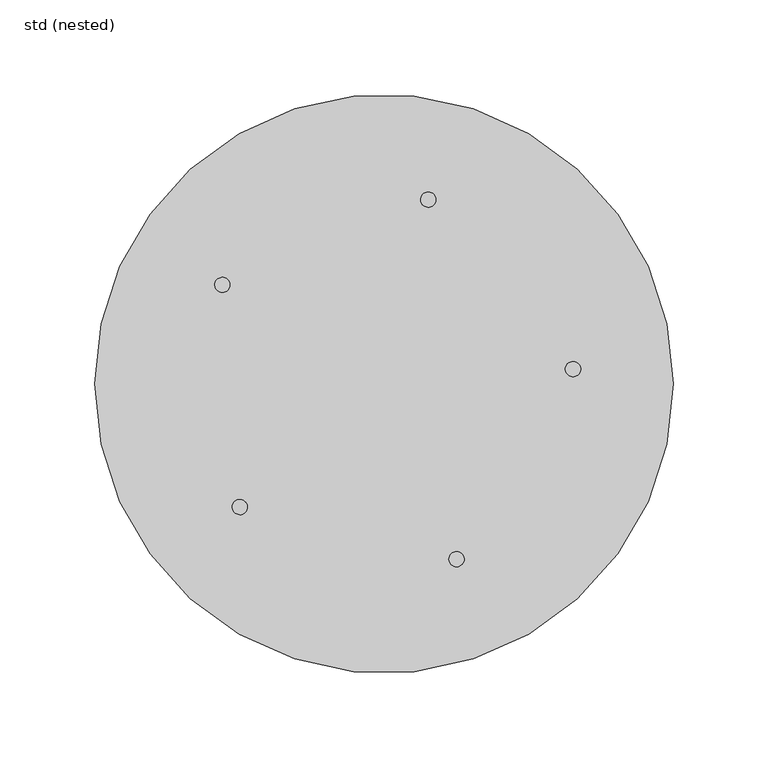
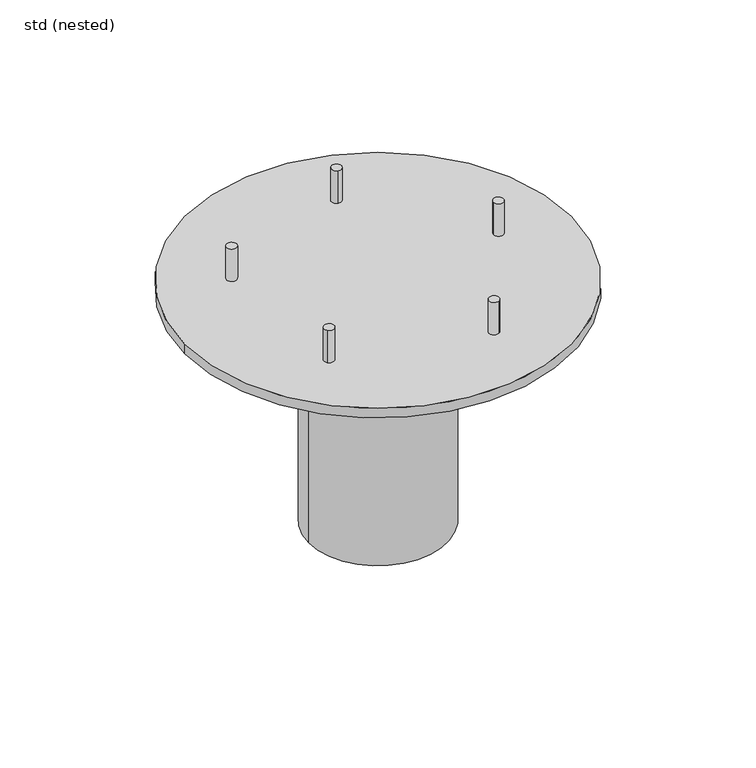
"""IFC4 building model written with IfcOpenShell, lengths in millimetres: sanitary terminal geometry, ZZZ_do not use_PF_CI_upper part for Passavant Spin_ACO : std (nested)."""

import ifcopenshell
import ifcopenshell.guid

model = None  # the IFC model being written
_history = None  # IfcOwnerHistory: only IFC2X3 demands one
_inside = {}  # id of a spatial element -> (the spatial element, [elements in it])
_under = {}  # id of a project, library or spatial element -> (it, [spatial elements below it])
_declared = {}  # id of a project -> (the project, [libraries it declares])
_typed = {}  # id of a type object -> (the type object, [elements of that type])
_made_of = {}  # id of a material, layer set ... -> (it, [elements and type objects made of it])


def new_model(schema):
    """Start an empty IFC model of exactly this schema.

    Asked for "IFC4X3", IfcOpenShell would pick the latest addendum, in which some entities
    have other attributes; the version numbers below select the first issue.
    IFC2X3 requires an IfcOwnerHistory on every rooted entity: one is made here for all.
    """
    global model, _history
    if schema == "IFC4X3":
        model = ifcopenshell.file(schema_version=(4, 3, 0, 0))
    else:
        model = ifcopenshell.file(schema=schema)
    _inside.clear()
    _under.clear()
    _declared.clear()
    _typed.clear()
    _made_of.clear()
    _history = None
    if model.schema == "IFC2X3":
        org = make("IfcOrganization", Name="unknown")
        user = make(
            "IfcPersonAndOrganization",
            ThePerson=make("IfcPerson", FamilyName="unknown"),
            TheOrganization=org,
        )
        app = make(
            "IfcApplication",
            ApplicationDeveloper=org,
            Version="unknown",
            ApplicationFullName="unknown",
            ApplicationIdentifier="unknown",
        )
        _history = make(
            "IfcOwnerHistory",
            OwningUser=user,
            OwningApplication=app,
            ChangeAction="ADDED",
            CreationDate=0,
        )
    return model


def make(cls, **values):
    """One entity of the class cls with the attributes given. An attribute that is None is left unset."""
    return model.create_entity(
        cls, **{name: value for name, value in values.items() if value is not None}
    )


def rooted(cls, **values):
    """An entity with a GlobalId (a new one), such as an element, a storey or a relation."""
    return make(cls, GlobalId=ifcopenshell.guid.new(), OwnerHistory=_history, **values)


def si_unit(unit_type, name, prefix=None):
    """IfcSIUnit, for example si_unit("LENGTHUNIT", "METRE", prefix="MILLI")."""
    return make("IfcSIUnit", UnitType=unit_type, Prefix=prefix, Name=name)


def assignment(units):
    """IfcUnitAssignment: the units of a project."""
    return None if units is None else make("IfcUnitAssignment", Units=units)


def point(xyz):
    """IfcCartesianPoint."""
    return None if xyz is None else make("IfcCartesianPoint", Coordinates=xyz)


def direction(xyz):
    """IfcDirection."""
    return None if xyz is None else make("IfcDirection", DirectionRatios=xyz)


def frame(location, z_axis=None, x_axis=None):
    """IfcAxis2Placement3D, a coordinate frame: its origin and axes. An axis left out is left unset."""
    return make(
        "IfcAxis2Placement3D",
        Location=point(location),
        Axis=direction(z_axis),
        RefDirection=direction(x_axis),
    )


def frame_2d(location, x_axis=None):
    """IfcAxis2Placement2D, a coordinate frame in the plane: its origin and x axis."""
    return make(
        "IfcAxis2Placement2D", Location=point(location), RefDirection=direction(x_axis)
    )


def origin():
    """The frame at (0, 0, 0) with its axes left unset."""
    return frame((0.0, 0.0, 0.0))


def origin_with_axes():
    """The frame at (0, 0, 0) with the z axis (0, 0, 1) and the x axis (1, 0, 0) written out."""
    return frame((0.0, 0.0, 0.0), z_axis=(0.0, 0.0, 1.0), x_axis=(1.0, 0.0, 0.0))


def origin_2d():
    """The frame at (0, 0) in the plane with its x axis left unset."""
    return frame_2d((0.0, 0.0))


def place(relative_to, where):
    """IfcLocalPlacement: puts the frame where relative to a parent placement (None: the world)."""
    return make(
        "IfcLocalPlacement", PlacementRelTo=relative_to, RelativePlacement=where
    )


def context(
    kind, dimensions, precision=None, world=None, true_north=None, identifier=None
):
    """IfcGeometricRepresentationContext, for example the 3D "Model" context."""
    return make(
        "IfcGeometricRepresentationContext",
        ContextIdentifier=identifier,
        ContextType=kind,
        CoordinateSpaceDimension=dimensions,
        Precision=precision,
        WorldCoordinateSystem=world,
        TrueNorth=true_north,
    )


def project(units=None, contexts=None):
    """IfcProject with its units and contexts."""
    return rooted(
        "IfcProject",
        Name="project",
        RepresentationContexts=contexts,
        UnitsInContext=assignment(units),
    )


def spatial(cls, under=None, at=None, **own):
    """A site, building, storey or space (cls), placed at a placement, below another one or the project."""
    s = rooted(cls, ObjectPlacement=at, **own)
    if under is not None:
        _under.setdefault(under.id(), (under, []))[1].append(s)
    return s


def circle_curve(where, radius):
    """IfcCircle in the frame where."""
    return make("IfcCircle", Position=where, Radius=radius)


def trimmed(basis, trim1, trim2, sense, master):
    """IfcTrimmedCurve: the piece of a basis curve between two trims."""
    return make(
        "IfcTrimmedCurve",
        BasisCurve=basis,
        Trim1=trim1,
        Trim2=trim2,
        SenseAgreement=sense,
        MasterRepresentation=master,
    )


def segment(curve, same_sense, transition):
    """IfcCompositeCurveSegment."""
    return make(
        "IfcCompositeCurveSegment",
        Transition=transition,
        SameSense=same_sense,
        ParentCurve=curve,
    )


def composite_curve(segments, self_intersect=None):
    """IfcCompositeCurve: segments joined end to end."""
    return make("IfcCompositeCurve", Segments=segments, SelfIntersect=self_intersect)


def outline(outer, holes=None, kind="AREA"):
    """IfcArbitraryClosedProfileDef: a profile drawn as a closed curve; with holes, ...WithVoids."""
    if holes is None:
        return make("IfcArbitraryClosedProfileDef", ProfileType=kind, OuterCurve=outer)
    return make(
        "IfcArbitraryProfileDefWithVoids",
        ProfileType=kind,
        OuterCurve=outer,
        InnerCurves=holes,
    )


def extrude(swept, where, along, depth):
    """IfcExtrudedAreaSolid: the profile swept, set in the frame where, extruded along a direction by depth."""
    return make(
        "IfcExtrudedAreaSolid",
        SweptArea=swept,
        Position=where,
        ExtrudedDirection=direction(along),
        Depth=depth,
    )


def shape(context_of_items, identifier, shape_type, items):
    """IfcShapeRepresentation: the items that make up one representation, for example the "Body"."""
    return make(
        "IfcShapeRepresentation",
        ContextOfItems=context_of_items,
        RepresentationIdentifier=identifier,
        RepresentationType=shape_type,
        Items=items,
    )


def source(mapping_origin, context_of_items, identifier, shape_type, items):
    """IfcRepresentationMap: a shape defined once, which mapped items show again and again."""
    return make(
        "IfcRepresentationMap",
        MappingOrigin=mapping_origin,
        MappedRepresentation=shape(context_of_items, identifier, shape_type, items),
    )


def transform(
    local_origin,
    x_axis=None,
    y_axis=None,
    z_axis=None,
    scale=None,
    scale2=None,
    scale3=None,
    uniform=True,
):
    """IfcCartesianTransformationOperator3D, or its non-uniform kind. x_axis, y_axis, z_axis: its Axis1, 2, 3."""
    if uniform:
        return make(
            "IfcCartesianTransformationOperator3D",
            Axis1=direction(x_axis),
            Axis2=direction(y_axis),
            LocalOrigin=point(local_origin),
            Scale=scale,
            Axis3=direction(z_axis),
        )
    return make(
        "IfcCartesianTransformationOperator3DnonUniform",
        Axis1=direction(x_axis),
        Axis2=direction(y_axis),
        LocalOrigin=point(local_origin),
        Scale=scale,
        Axis3=direction(z_axis),
        Scale2=scale2,
        Scale3=scale3,
    )


def mapped(mapping_source, mapping_target):
    """IfcMappedItem: shows the shape of a source again, moved by a transform."""
    return make(
        "IfcMappedItem", MappingSource=mapping_source, MappingTarget=mapping_target
    )


def made_of(thing, what):
    """Note that an element or type object is made of a material, layer set ...; save() writes the relation."""
    if what is not None:
        _made_of.setdefault(what.id(), (what, []))[1].append(thing)
    return thing


def element(
    cls,
    number,
    at=None,
    inside=None,
    cuts=None,
    type_object=None,
    material=None,
    context=None,
    identifier="Body",
    shape_type=None,
    held_by="IfcProductDefinitionShape",
    body=None,
    shapes=None,
    **own,
):
    """One element of the class cls, such as IfcWall. Its Tag is "e" and its number.

    at: its placement. inside: the storey or other place that contains it. cuts: it is an
    opening in that element (IfcRelVoidsElement). A single representation is given by context,
    identifier, shape_type and body (its items); several are given by shapes. held_by: the class
    of the entity that holds the representations. save() writes the other relations.
    """
    e = rooted(cls, Tag="e%d" % number, ObjectPlacement=at, **own)
    if body is not None:
        shapes = [shape(context, identifier, shape_type, body)]
    if shapes is not None:
        e.Representation = make(held_by, Representations=shapes)
    if inside is not None:
        _inside.setdefault(inside.id(), (inside, []))[1].append(e)
    if cuts is not None:
        rooted(
            "IfcRelVoidsElement", RelatingBuildingElement=cuts, RelatedOpeningElement=e
        )
    if type_object is not None:
        _typed.setdefault(type_object.id(), (type_object, []))[1].append(e)
    return made_of(e, material)


def aggregate(whole, parts):
    """IfcRelAggregates: a whole, such as a stair, and the parts it consists of."""
    return rooted("IfcRelAggregates", RelatingObject=whole, RelatedObjects=parts)


def save(model, path):
    """Write the relations noted so far, then the file.

    IfcRelAggregates (storeys below a building ...), IfcRelContainedInSpatialStructure (elements
    in a storey), IfcRelDefinesByType, IfcRelAssociatesMaterial and IfcRelDeclares: one each for
    every whole, place, type object, material and project.
    """
    for whole, parts in _under.values():
        aggregate(whole, parts)
    for where, things in _inside.values():
        rooted(
            "IfcRelContainedInSpatialStructure",
            RelatedElements=things,
            RelatingStructure=where,
        )
    for kind, things in _typed.values():
        rooted("IfcRelDefinesByType", RelatedObjects=things, RelatingType=kind)
    for what, things in _made_of.values():
        rooted("IfcRelAssociatesMaterial", RelatedObjects=things, RelatingMaterial=what)
    for by, libraries in _declared.values():
        rooted("IfcRelDeclares", RelatingContext=by, RelatedDefinitions=libraries)
    model.write(path)


def plane_surface(at):
    """IfcPlane: the flat surface through the origin of the frame at, square to its z axis."""
    return make("IfcPlane", Position=at)


def cylinder_surface(at, radius):
    """IfcCylindricalSurface: all points at the distance radius from the z axis of the frame at."""
    return make("IfcCylindricalSurface", Position=at, Radius=radius)


def advanced_brep(points, edges, surfaces, faces):
    """IfcAdvancedBrep: a solid bounded by faces that lie on surfaces and meet in shared edges.

    An edge is (start, end): straight between two places in points (the first is 0);
    or (start, end, curve); or (start, end, curve, False) where it runs against its curve.
    A face is (place in surfaces, loops), or (place, loops, False) where it looks against
    its surface's normal. A loop lists edges by number (the first is 1), with a minus sign
    where the edge is run from its end to its start. The first loop is the outer one.
    """
    corners = [point(p) for p in points]
    vertices = [make("IfcVertexPoint", VertexGeometry=c) for c in corners]
    made = []
    for start, end, *more in edges:
        made.append(
            make(
                "IfcEdgeCurve",
                EdgeStart=vertices[start],
                EdgeEnd=vertices[end],
                EdgeGeometry=more[0] if more else make("IfcPolyline", Points=[corners[start], corners[end]]),
                SameSense=more[1] if len(more) > 1 else True,
            )
        )
    hull = []
    for where, loops, *sense in faces:
        bounds = []
        for j, loop in enumerate(loops):
            ring = [make("IfcOrientedEdge", EdgeElement=made[abs(k) - 1], Orientation=k > 0) for k in loop]
            bounds.append(
                make(
                    "IfcFaceOuterBound" if j == 0 else "IfcFaceBound",
                    Bound=make("IfcEdgeLoop", EdgeList=ring),
                    Orientation=True,
                )
            )
        hull.append(make("IfcAdvancedFace", Bounds=bounds, FaceSurface=surfaces[where], SameSense=sense[0] if sense else True))
    return make("IfcAdvancedBrep", Outer=make("IfcClosedShell", CfsFaces=hull))


def std_nested_35449f27(model_context):
    return source(origin(), model_context, "Body", "SolidModel", [
        extrude(outline(composite_curve([segment(trimmed(circle_curve(frame_2d((-85.2640164, 52.2498565)), 4.0), [point((-88.6745771, 54.3398507))], [point((-81.8534558, 50.1598622))], False, "CARTESIAN"), True, "CONTINUOUS"), segment(trimmed(circle_curve(frame_2d((-85.2640164, 52.2498565)), 4.0), [point((-81.8534558, 50.1598622))], [point((-88.6745771, 54.3398507))], False, "CARTESIAN"), True, "CONTINUOUS")], self_intersect=False)), origin_with_axes(), (0.0, 0.0, 1.0), 27.0),
        extrude(outline(composite_curve([segment(trimmed(circle_curve(frame_2d((-76.0405966, -64.9448048)), 4.0), [point((-79.0822204, -67.542597))], [point((-72.9989727, -62.3470126))], False, "CARTESIAN"), True, "CONTINUOUS"), segment(trimmed(circle_curve(frame_2d((-76.0405966, -64.9448048)), 4.0), [point((-72.9989727, -62.3470126))], [point((-79.0822204, -67.542597))], False, "CARTESIAN"), True, "CONTINUOUS")], self_intersect=False)), origin_with_axes(), (0.0, 0.0, 1.0), 27.0),
        extrude(outline(composite_curve([segment(trimmed(circle_curve(frame_2d((38.2683432, -92.3879533)), 4.0), [point((39.799077, -96.0834714))], [point((36.7376095, -88.6924351))], False, "CARTESIAN"), True, "CONTINUOUS"), segment(trimmed(circle_curve(frame_2d((38.2683432, -92.3879533)), 4.0), [point((36.7376095, -88.6924351))], [point((39.799077, -96.0834714))], False, "CARTESIAN"), True, "CONTINUOUS")], self_intersect=False)), origin_with_axes(), (0.0, 0.0, 1.0), 27.0),
        extrude(outline(composite_curve([segment(trimmed(circle_curve(frame_2d((99.6917334, 7.8459096)), 4.0), [point((103.6794027, 8.159746))], [point((95.704064, 7.5320732))], False, "CARTESIAN"), True, "CONTINUOUS"), segment(trimmed(circle_curve(frame_2d((99.6917334, 7.8459096)), 4.0), [point((95.704064, 7.5320732))], [point((103.6794027, 8.159746))], False, "CARTESIAN"), True, "CONTINUOUS")], self_intersect=False)), origin_with_axes(), (0.0, 0.0, 1.0), 27.0),
        extrude(outline(composite_curve([segment(trimmed(circle_curve(frame_2d((23.3445364, 97.236992)), 4.0), [point((24.2783178, 101.1264717))], [point((22.4107549, 93.3475124))], False, "CARTESIAN"), True, "CONTINUOUS"), segment(trimmed(circle_curve(frame_2d((23.3445364, 97.236992)), 4.0), [point((22.4107549, 93.3475124))], [point((24.2783178, 101.1264717))], False, "CARTESIAN"), True, "CONTINUOUS")], self_intersect=False)), origin_with_axes(), (0.0, 0.0, 1.0), 27.0),
        extrude(outline(composite_curve([segment(trimmed(circle_curve(origin_2d(), 54.5), [point((-54.5, 0.0))], [point((54.5, 0.0))], False, "CARTESIAN"), True, "CONTINUOUS"), segment(trimmed(circle_curve(origin_2d(), 54.5), [point((54.5, 0.0))], [point((-54.5, 0.0))], False, "CARTESIAN"), True, "CONTINUOUS")], self_intersect=False)), frame((0.0, 0.0, -200.0), z_axis=(0.0, 0.0, 1.0), x_axis=(1.0, 0.0, 0.0)), (0.0, 0.0, 1.0), 145.0),
        advanced_brep(
        [(0.0, -63.5, -55.0), (0.0, 63.5, -55.0), (0.0, 63.5, -8.0), (0.0, -63.5, -8.0), (-152.5, 0.0, -8.0), (152.5, 0.0, -8.0), (-152.5, 0.0, 0.0), (152.5, 0.0, 0.0)],
        [
            (0, 1, circle_curve(frame((0.0, 0.0, -55.0), z_axis=(0.0, 0.0, -1.0), x_axis=(0.0, 1.0, 0.0)), 63.5)),
            (1, 0, circle_curve(frame((0.0, 0.0, -55.0), z_axis=(0.0, 0.0, -1.0), x_axis=(0.0, 1.0, 0.0)), 63.5)),
            (1, 2),
            (2, 3, circle_curve(frame((0.0, 0.0, -8.0), z_axis=(0.0, 0.0, -1.0), x_axis=(0.0, 1.0, 0.0)), 63.5)),
            (3, 0),
            (3, 2, circle_curve(frame((0.0, 0.0, -8.0), z_axis=(0.0, 0.0, -1.0), x_axis=(0.0, 1.0, 0.0)), 63.5)),
            (4, 5, circle_curve(frame((0.0, 0.0, -8.0), z_axis=(0.0, 0.0, -1.0), x_axis=(1.0, 0.0, 0.0)), 152.5)),
            (5, 4, circle_curve(frame((0.0, 0.0, -8.0), z_axis=(0.0, 0.0, -1.0), x_axis=(1.0, 0.0, 0.0)), 152.5)),
            (6, 7, circle_curve(origin_with_axes(), 152.5)),
            (7, 6, circle_curve(origin_with_axes(), 152.5)),
            (5, 7),
            (6, 4),
        ],
        [
            plane_surface(frame((0.0, 63.5, -55.0), z_axis=(0.0, 0.0, -1.0), x_axis=(1.0, 0.0, 0.0))),
            cylinder_surface(frame((0.0, 0.0, -55.0), z_axis=(0.0, 0.0, 1.0), x_axis=(0.0, 1.0, 0.0)), 63.5),
            plane_surface(frame((152.5, 0.0, -8.0), z_axis=(0.0, 0.0, -1.0), x_axis=(0.0, -1.0, 0.0))),
            plane_surface(frame((152.5, 0.0, 0.0), z_axis=(0.0, 0.0, 1.0), x_axis=(0.0, 1.0, 0.0))),
            cylinder_surface(frame((0.0, 0.0, -8.0), z_axis=(0.0, 0.0, 1.0), x_axis=(1.0, 0.0, 0.0)), 152.5),
        ],
        [
            (0, [[1, 2]]),
            (1, [[-2, 3, 4, 5]]),
            (1, [[-1, -5, 6, -3]]),
            (2, [[7, 8], [-4, -6]]),
            (3, [[9, 10]]),
            (4, [[-8, 11, -9, 12]]),
            (4, [[-7, -12, -10, -11]]),
        ],
    ),
    ])


if __name__ == "__main__":
    model = new_model("IFC4")
    model_context = context("Model", 3, world=origin())
    ifc_project = project(units=[si_unit("LENGTHUNIT", "METRE", prefix="MILLI")], contexts=[model_context])
    site = spatial("IfcSite", under=ifc_project)
    building = spatial("IfcBuilding", under=site)
    placement = place(None, origin())
    std_nested_shape = std_nested_35449f27(model_context)
    element("IfcSanitaryTerminal", 1, ObjectType="ZZZ_do not use_PF_CI_upper part for Passavant Spin_ACO : std (nested)", at=placement, inside=building, context=model_context, shape_type="MappedRepresentation", body=[
        mapped(std_nested_shape, transform((0.0, 0.0, 0.0), x_axis=(1.0, 0.0, 0.0), y_axis=(0.0, 1.0, 0.0), z_axis=(0.0, 0.0, 1.0))),
    ])
    save(model, "model.ifc")
